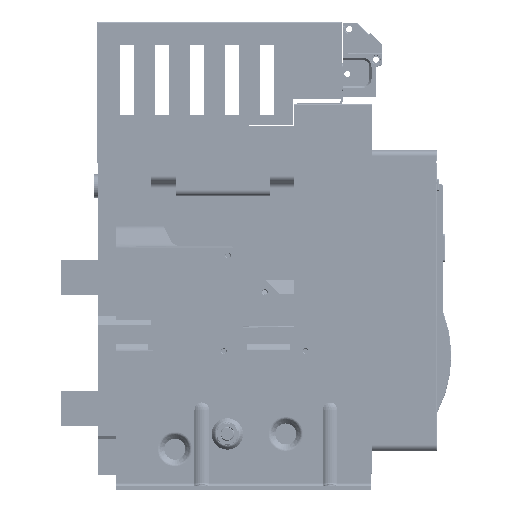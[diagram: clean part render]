
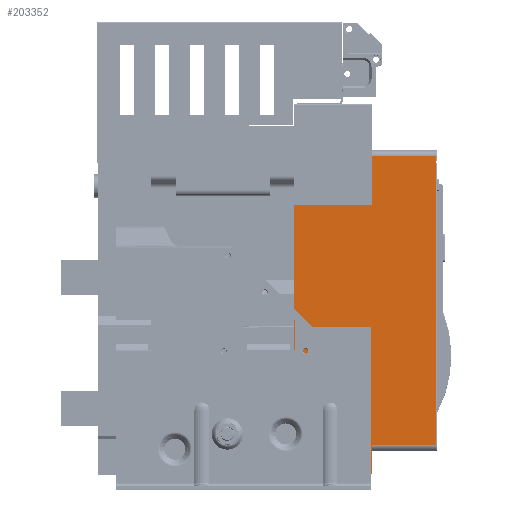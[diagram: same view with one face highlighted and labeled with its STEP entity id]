
A CAD part, front view. The second image highlights one B-rep face of the part: STEP entity #203352.
In plain terms, the highlighted planar face has unit normal (0, -1, 0) as drawn and (-1, 0, 0) by its records, which use the part's own axes.
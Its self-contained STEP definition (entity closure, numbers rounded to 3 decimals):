
#3312 = VECTOR ( 'NONE', #59977, 1000. ) ;
#4631 = EDGE_CURVE ( 'NONE', #361640, #325964, #225100, .T. ) ;
#12969 = EDGE_CURVE ( 'NONE', #137810, #239103, #236253, .T. ) ;
#15417 = VECTOR ( 'NONE', #327420, 1000. ) ;
#16424 = LINE ( 'NONE', #351424, #15417 ) ;
#17410 = VECTOR ( 'NONE', #147962, 1000. ) ;
#26854 = CARTESIAN_POINT ( 'NONE',  ( 724., -263.7, -189. ) ) ;
#28992 = CARTESIAN_POINT ( 'NONE',  ( 724., -264.2, -55.3 ) ) ;
#39306 = ORIENTED_EDGE ( 'NONE', *, *, #196430, .T. ) ;
#45047 = EDGE_CURVE ( 'NONE', #239103, #248287, #83968, .T. ) ;
#56479 = VECTOR ( 'NONE', #272194, 1000. ) ;
#56744 = VERTEX_POINT ( 'NONE', #216187 ) ;
#59977 = DIRECTION ( 'NONE',  ( 0., 1., 0. ) ) ;
#68033 = VECTOR ( 'NONE', #361413, 1000. ) ;
#79158 = AXIS2_PLACEMENT_3D ( 'NONE', #28992, #141298, #253587 ) ;
#83968 = LINE ( 'NONE', #361867, #3312 ) ;
#103612 = ORIENTED_EDGE ( 'NONE', *, *, #4631, .T. ) ;
#105703 = EDGE_LOOP ( 'NONE', ( #39306, #362659, #103612, #270788, #189886, #349695, #215749, #296615 ) ) ;
#111161 = CARTESIAN_POINT ( 'NONE',  ( 724., -209.2, 59. ) ) ;
#115140 = VECTOR ( 'NONE', #359037, 1000. ) ;
#117609 = LINE ( 'NONE', #278577, #68033 ) ;
#122992 = EDGE_CURVE ( 'NONE', #56744, #361640, #187582, .T. ) ;
#137810 = VERTEX_POINT ( 'NONE', #111161 ) ;
#138122 = LINE ( 'NONE', #252215, #115140 ) ;
#141298 = DIRECTION ( 'NONE',  ( -1., 0., 0. ) ) ;
#142167 = EDGE_CURVE ( 'NONE', #160682, #187552, #16424, .T. ) ;
#147962 = DIRECTION ( 'NONE',  ( 0., 0., -1. ) ) ;
#159938 = CARTESIAN_POINT ( 'NONE',  ( 724., -264.2, -212.7 ) ) ;
#160682 = VERTEX_POINT ( 'NONE', #26854 ) ;
#175593 = CARTESIAN_POINT ( 'NONE',  ( 724., -209.2, 59. ) ) ;
#181269 = VECTOR ( 'NONE', #225391, 1000. ) ;
#181911 = CARTESIAN_POINT ( 'NONE',  ( 724., -209.2, 16.8 ) ) ;
#187552 = VERTEX_POINT ( 'NONE', #305542 ) ;
#187582 = LINE ( 'NONE', #159938, #56479 ) ;
#189886 = ORIENTED_EDGE ( 'NONE', *, *, #142167, .T. ) ;
#196430 = EDGE_CURVE ( 'NONE', #248287, #56744, #138122, .T. ) ;
#196571 = FACE_OUTER_BOUND ( 'NONE', #105703, .T. ) ;
#203352 = ADVANCED_FACE ( 'NONE', ( #196571 ), #308789, .T. ) ;
#205942 = CARTESIAN_POINT ( 'NONE',  ( 724., -209.2, -189. ) ) ;
#212297 = EDGE_CURVE ( 'NONE', #325964, #160682, #117609, .T. ) ;
#215749 = ORIENTED_EDGE ( 'NONE', *, *, #12969, .T. ) ;
#216187 = CARTESIAN_POINT ( 'NONE',  ( 724., -142.2, -212.7 ) ) ;
#225100 = LINE ( 'NONE', #337321, #298732 ) ;
#225391 = DIRECTION ( 'NONE',  ( 0., 1., 0. ) ) ;
#230553 = DIRECTION ( 'NONE',  ( 0., 0., 1. ) ) ;
#236253 = LINE ( 'NONE', #343037, #17410 ) ;
#239103 = VERTEX_POINT ( 'NONE', #181911 ) ;
#248287 = VERTEX_POINT ( 'NONE', #336909 ) ;
#252215 = CARTESIAN_POINT ( 'NONE',  ( 724., -142.2, -55.3 ) ) ;
#253587 = DIRECTION ( 'NONE',  ( 0., 0., 1. ) ) ;
#270788 = ORIENTED_EDGE ( 'NONE', *, *, #212297, .T. ) ;
#272194 = DIRECTION ( 'NONE',  ( 0., -1., 0. ) ) ;
#278577 = CARTESIAN_POINT ( 'NONE',  ( 724., -264.7, -189. ) ) ;
#292967 = EDGE_CURVE ( 'NONE', #187552, #137810, #313628, .T. ) ;
#296615 = ORIENTED_EDGE ( 'NONE', *, *, #45047, .T. ) ;
#298732 = VECTOR ( 'NONE', #230553, 1000. ) ;
#305542 = CARTESIAN_POINT ( 'NONE',  ( 724., -263.7, 59. ) ) ;
#308789 = PLANE ( 'NONE',  #79158 ) ;
#313628 = LINE ( 'NONE', #175593, #181269 ) ;
#325964 = VERTEX_POINT ( 'NONE', #205942 ) ;
#327420 = DIRECTION ( 'NONE',  ( 0., 0., 1. ) ) ;
#336909 = CARTESIAN_POINT ( 'NONE',  ( 724., -142.2, 16.8 ) ) ;
#337289 = CARTESIAN_POINT ( 'NONE',  ( 724., -209.2, -212.7 ) ) ;
#337321 = CARTESIAN_POINT ( 'NONE',  ( 724., -209.2, -214.3 ) ) ;
#343037 = CARTESIAN_POINT ( 'NONE',  ( 724., -209.2, 63.8 ) ) ;
#349695 = ORIENTED_EDGE ( 'NONE', *, *, #292967, .T. ) ;
#351424 = CARTESIAN_POINT ( 'NONE',  ( 724., -263.7, 56.322 ) ) ;
#359037 = DIRECTION ( 'NONE',  ( 0., 0., -1. ) ) ;
#361413 = DIRECTION ( 'NONE',  ( 0., -1., 0. ) ) ;
#361640 = VERTEX_POINT ( 'NONE', #337289 ) ;
#361867 = CARTESIAN_POINT ( 'NONE',  ( 724., -242.2, 16.8 ) ) ;
#362659 = ORIENTED_EDGE ( 'NONE', *, *, #122992, .T. ) ;
